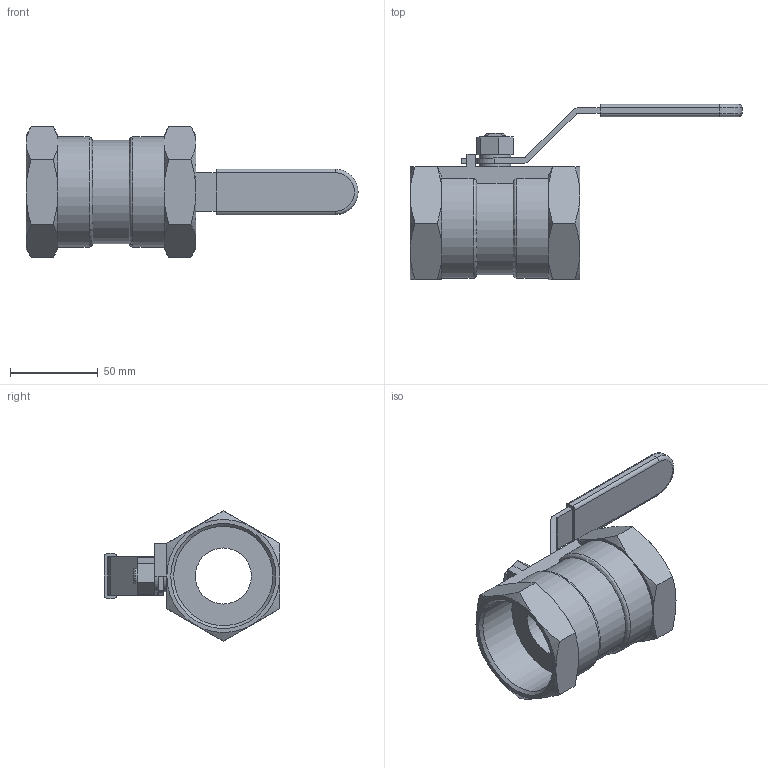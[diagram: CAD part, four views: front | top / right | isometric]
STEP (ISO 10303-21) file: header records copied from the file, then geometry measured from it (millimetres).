
FILE_DESCRIPTION(/* description */ ('Eriks item no: 12427440'),/* implementation_level */ '2;1');
FILE_NAME(/* name */ '7744-DN50-RB-1000PSI-BSP.stp',/* time_stamp */ '2024-02-16T09:51:40+01:00',/* author */ ('roger.thijssen'),/* organization */ (''),/* preprocessor_version */ 'ST-DEVELOPER v19.2',/* originating_system */ 'Autodesk Inventor 2024',/* authorisation */ '');
FILE_SCHEMA (('AUTOMOTIVE_DESIGN { 1 0 10303 214 3 1 1 }'));
Length unit declared in the file: millimetre
Products named in the file (1): Ball valve, 7744-DN50-RB-1000PSI-BSP
Bounding box: 189.5 x 100.25 x 74.48 mm (x, y, z)
Volume: 178467.1 mm3; surface area: 50389.4 mm2
Topology: 1 solids, 1 shells, 293 faces, 763 edges, 500 vertices
Faces by surface type: plane 205, cylinder 47, cone 28, bspline 9, torus 4
Full cylindrical faces by diameter (mm): 18 x2, 32 x1, 56.656 x2
Entity records: 9339 total; most frequent: CARTESIAN_POINT 1870, ORIENTED_EDGE 1526, DIRECTION 1383, EDGE_CURVE 763, LINE 565, VECTOR 565, VERTEX_POINT 500, AXIS2_PLACEMENT_3D 409
